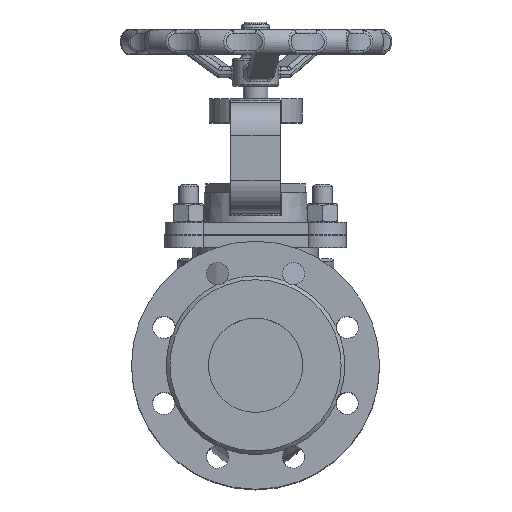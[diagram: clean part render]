
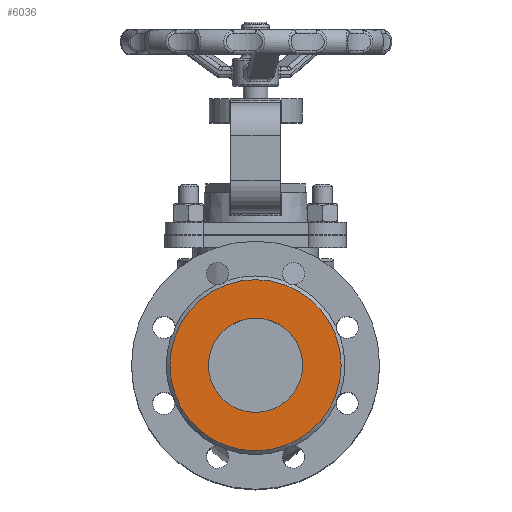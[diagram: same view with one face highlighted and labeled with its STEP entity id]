
A CAD part, top view. The second image highlights one B-rep face of the part: STEP entity #6036.
In plain terms, the highlighted planar face has unit normal (0, 0, 1).
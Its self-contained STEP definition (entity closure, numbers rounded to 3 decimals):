
#6036=ADVANCED_FACE('',(#14133,#14135),#14137,.F.);
#14133=FACE_BOUND('',#14134,.T.);
#14134=EDGE_LOOP('',(#21149));
#14135=FACE_BOUND('',#14136,.T.);
#14136=EDGE_LOOP('',(#21150));
#14137=PLANE('',#14138);
#14138=AXIS2_PLACEMENT_3D('',#14139,#14140,#14141);
#14139=CARTESIAN_POINT('',(0.,0.,155.));
#14140=DIRECTION('',(0.,0.,-1.));
#14141=DIRECTION('',(0.,1.,0.));
#21149=ORIENTED_EDGE('',*,*,#24129,.T.);
#21150=ORIENTED_EDGE('',*,*,#24214,.T.);
#24129=EDGE_CURVE('',#27654,#27654,#27655,.T.);
#24214=EDGE_CURVE('',#27764,#27764,#27765,.T.);
#27654=VERTEX_POINT('',#60713);
#27655=CIRCLE('',#60714,69.);
#27764=VERTEX_POINT('',#62108);
#27765=CIRCLE('',#62109,38.);
#60713=CARTESIAN_POINT('',(0.,69.,155.));
#60714=AXIS2_PLACEMENT_3D('',#60715,#60716,#60717);
#60715=CARTESIAN_POINT('',(0.,0.,155.));
#60716=DIRECTION('',(0.,0.,1.));
#60717=DIRECTION('',(0.,1.,0.));
#62108=CARTESIAN_POINT('',(-38.,0.,155.));
#62109=AXIS2_PLACEMENT_3D('',#62110,#62111,#62112);
#62110=CARTESIAN_POINT('',(0.,0.,155.));
#62111=DIRECTION('',(0.,0.,-1.));
#62112=DIRECTION('',(-1.,0.,0.));
